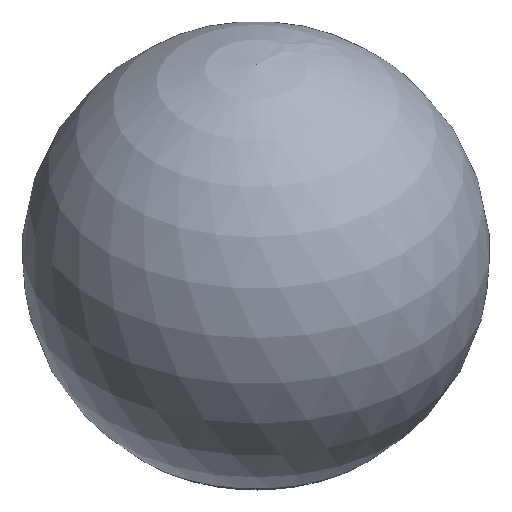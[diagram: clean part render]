
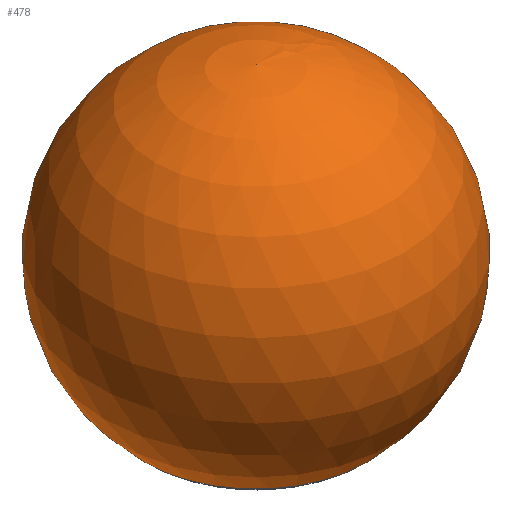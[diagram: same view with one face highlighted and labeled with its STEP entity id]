
A CAD part, isometric view. The second image highlights one B-rep face of the part: STEP entity #478.
In plain terms, the highlighted spherical face has radius 10 mm.
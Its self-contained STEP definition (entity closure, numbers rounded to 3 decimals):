
#321 = CONICAL_SURFACE('',#322,6.278,1.064);
#322 = AXIS2_PLACEMENT_3D('',#323,#324,#325);
#323 = CARTESIAN_POINT('',(0.,0.,1.));
#324 = DIRECTION('',(0.,0.,1.));
#325 = DIRECTION('',(1.,0.,-0.));
#373 = VERTEX_POINT('',#374);
#374 = CARTESIAN_POINT('',(6.693,0.,
    1.231));
#397 = EDGE_CURVE('',#373,#373,#398,.T.);
#398 = SURFACE_CURVE('',#399,(#404,#411),.PCURVE_S1.);
#399 = CIRCLE('',#400,6.693);
#400 = AXIS2_PLACEMENT_3D('',#401,#402,#403);
#401 = CARTESIAN_POINT('',(0.,0.,1.231));
#402 = DIRECTION('',(0.,0.,1.));
#403 = DIRECTION('',(0.,-1.,0.));
#404 = PCURVE('',#321,#405);
#405 = DEFINITIONAL_REPRESENTATION('',(#406),#410);
#406 = LINE('',#407,#408);
#407 = CARTESIAN_POINT('',(-1.571,0.231));
#408 = VECTOR('',#409,1.);
#409 = DIRECTION('',(1.,0.));
#410 = ( GEOMETRIC_REPRESENTATION_CONTEXT(2) 
PARAMETRIC_REPRESENTATION_CONTEXT() REPRESENTATION_CONTEXT('2D SPACE',''
  ) );
#411 = PCURVE('',#412,#417);
#412 = SPHERICAL_SURFACE('',#413,10.);
#413 = AXIS2_PLACEMENT_3D('',#414,#415,#416);
#414 = CARTESIAN_POINT('',(0.,0.,8.66));
#415 = DIRECTION('',(0.,0.,1.));
#416 = DIRECTION('',(1.,0.,-0.));
#417 = DEFINITIONAL_REPRESENTATION('',(#418),#422);
#418 = LINE('',#419,#420);
#419 = CARTESIAN_POINT('',(-1.571,-0.837));
#420 = VECTOR('',#421,1.);
#421 = DIRECTION('',(1.,0.));
#422 = ( GEOMETRIC_REPRESENTATION_CONTEXT(2) 
PARAMETRIC_REPRESENTATION_CONTEXT() REPRESENTATION_CONTEXT('2D SPACE',''
  ) );
#478 = ADVANCED_FACE('',(#479),#412,.T.);
#479 = FACE_BOUND('',#480,.T.);
#480 = EDGE_LOOP('',(#481,#482,#506));
#481 = ORIENTED_EDGE('',*,*,#397,.T.);
#482 = ORIENTED_EDGE('',*,*,#483,.T.);
#483 = EDGE_CURVE('',#373,#484,#486,.T.);
#484 = VERTEX_POINT('',#485);
#485 = CARTESIAN_POINT('',(0.,0.,
    18.66));
#486 = SEAM_CURVE('',#487,(#492,#499),.PCURVE_S1.);
#487 = CIRCLE('',#488,10.);
#488 = AXIS2_PLACEMENT_3D('',#489,#490,#491);
#489 = CARTESIAN_POINT('',(0.,0.,8.66));
#490 = DIRECTION('',(0.,-1.,0.));
#491 = DIRECTION('',(1.,0.,0.));
#492 = PCURVE('',#412,#493);
#493 = DEFINITIONAL_REPRESENTATION('',(#494),#498);
#494 = LINE('',#495,#496);
#495 = CARTESIAN_POINT('',(0.,-6.283));
#496 = VECTOR('',#497,1.);
#497 = DIRECTION('',(0.,1.));
#498 = ( GEOMETRIC_REPRESENTATION_CONTEXT(2) 
PARAMETRIC_REPRESENTATION_CONTEXT() REPRESENTATION_CONTEXT('2D SPACE',''
  ) );
#499 = PCURVE('',#412,#500);
#500 = DEFINITIONAL_REPRESENTATION('',(#501),#505);
#501 = LINE('',#502,#503);
#502 = CARTESIAN_POINT('',(6.283,-6.283));
#503 = VECTOR('',#504,1.);
#504 = DIRECTION('',(0.,1.));
#505 = ( GEOMETRIC_REPRESENTATION_CONTEXT(2) 
PARAMETRIC_REPRESENTATION_CONTEXT() REPRESENTATION_CONTEXT('2D SPACE',''
  ) );
#506 = ORIENTED_EDGE('',*,*,#483,.F.);
